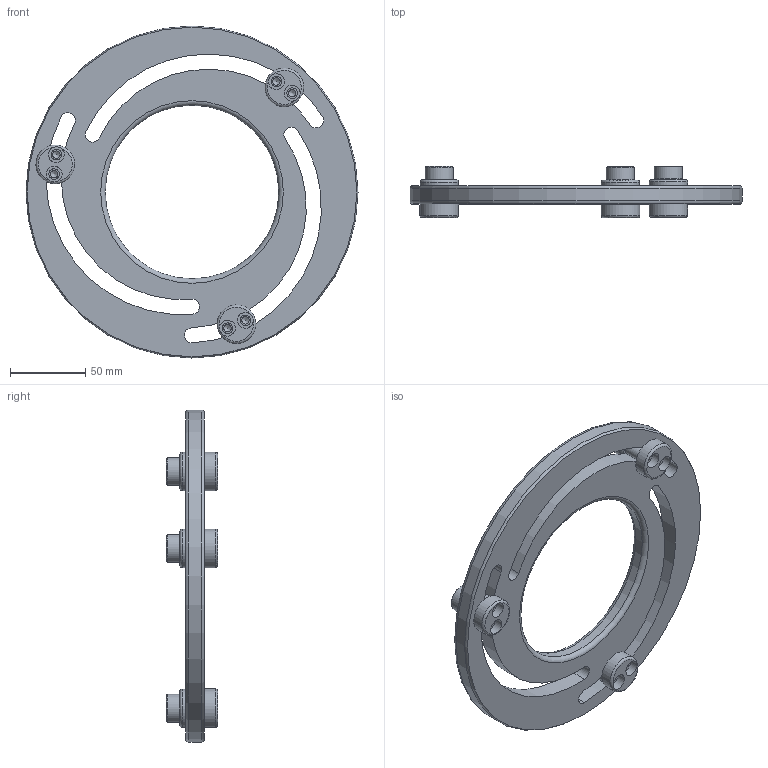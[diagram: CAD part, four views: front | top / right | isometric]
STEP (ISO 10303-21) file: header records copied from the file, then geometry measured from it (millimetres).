
FILE_DESCRIPTION(/* description */ (''),/* implementation_level */ '2;1');
FILE_NAME(/* name */ '',/* time_stamp */ '2024-09-12T09:53:48+03:00',/* author */ ('KanaanMD'),/* organization */ (''),/* preprocessor_version */ 'ST-DEVELOPER v19.2',/* originating_system */ 'Autodesk Inventor 2024',/* authorisation */ '');
FILE_SCHEMA (('AUTOMOTIVE_DESIGN { 1 0 10303 214 3 1 1 }'));
Length unit declared in the file: millimetre
Products named in the file (4): JB-08 приспособление 
для расточки кулачков 
токарного патрона; JB-08 приспособление 
для расточки кулачков 
токарного патрона_
1; Прижим Д1; Прижим Д2
Assembly tree (7 placements, depth 2):
  JB-08 приспособление 
для расточки кулачков 
токарного патрона
    JB-08 приспособление 
для расточки кулачков 
токарного патрона_
1
    Прижим Д1  x3
    Прижим Д2  x3
Bounding box: 220 x 34 x 220 mm (x, y, z)
Volume: 290211.9 mm3; surface area: 84035.1 mm2
Topology: 7 solids, 7 shells, 101 faces, 237 edges, 156 vertices
Faces by surface type: cylinder 53, plane 26, torus 13, cone 9
Full cylindrical faces by diameter (mm): 4.917 x6, 7 x6, 10.5 x6, 18.6 x3, 25.5 x3, 25.6 x3, 115 x1, 220 x1
Entity records: 1666 total; most frequent: DIRECTION 306, CARTESIAN_POINT 280, ORIENTED_EDGE 226, AXIS2_PLACEMENT_3D 138, EDGE_CURVE 113, CIRCLE 80, VERTEX_POINT 76, EDGE_LOOP 63
